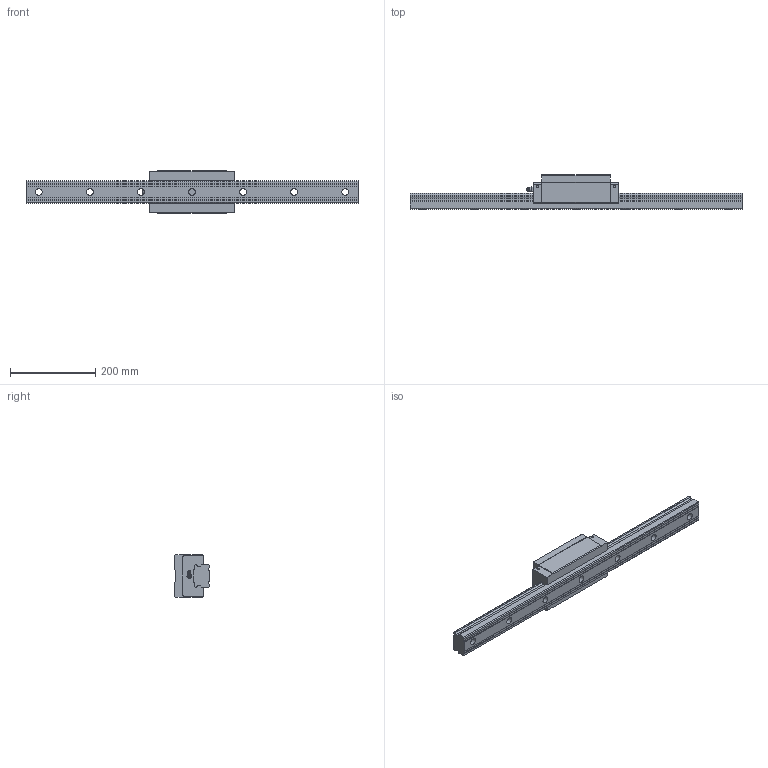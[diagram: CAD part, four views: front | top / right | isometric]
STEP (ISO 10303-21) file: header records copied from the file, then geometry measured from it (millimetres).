
FILE_DESCRIPTION(/* description */ ('STEP AP203'),/* implementation_level */ '2;1');
FILE_NAME(/* name */ 'SVR55LRH1SS-780L_G30_0_B-PT18_289-75_0_0_0_1',/* time_stamp */ '2024-05-17T07:28:57+02:00',/* author */ ('License CC BY-ND 4.0'),/* organization */ ('CADENAS'),/* preprocessor_version */ 'ST-DEVELOPER v19.3',/* originating_system */ 'PARTsolutions',/* authorisation */ ' ');
FILE_SCHEMA (('CONFIG_CONTROL_DESIGN'));
Length unit declared in the file: millimetre
Products named in the file (4): SVR55LRH1SS-780L_G30_0_B-PT18_289-75_0_0_0_1; SVR 55LRH78030 R Track; SVR 55LRH1SSB-PT1/81 Slide; B-PT1/8_grease_nipple_joint1_SVR
Assembly tree (3 placements, depth 2):
  SVR55LRH1SS-780L_G30_0_B-PT18_289-75_0_0_0_1
    SVR 55LRH78030 R Track
    SVR 55LRH1SSB-PT1/81 Slide
    B-PT1/8_grease_nipple_joint1_SVR
Bounding box: 780 x 80 x 100 mm (x, y, z)
Volume: 2329223.5 mm3; surface area: 249794.1 mm2
Topology: 3 solids, 3 shells, 180 faces, 470 edges, 309 vertices
Faces by surface type: plane 100, cylinder 55, cone 20, torus 3, sphere 2
Full cylindrical faces by diameter (mm): 5.2 x4, 9.6 x1, 10.106 x4, 16 x7, 23 x7
Entity records: 5340 total; most frequent: CARTESIAN_POINT 1011, DIRECTION 878, ORIENTED_EDGE 806, EDGE_CURVE 403, AXIS2_PLACEMENT_3D 318, VERTEX_POINT 296, FACE_BOUND 261, EDGE_LOOP 255
